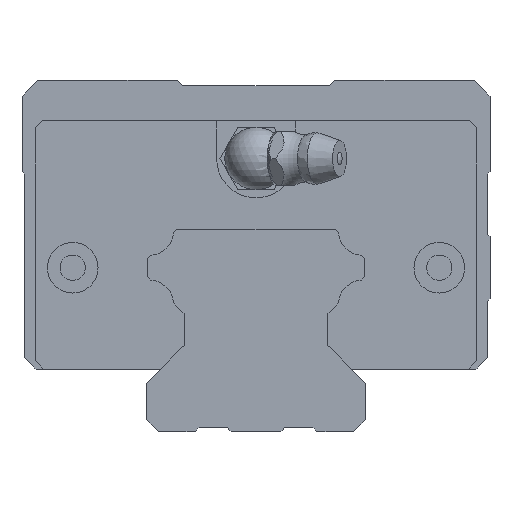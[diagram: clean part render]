
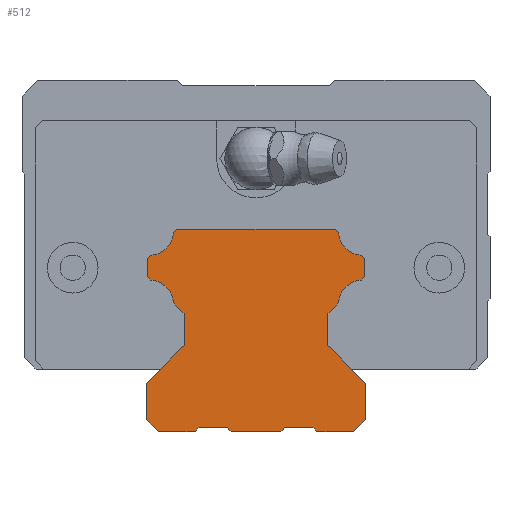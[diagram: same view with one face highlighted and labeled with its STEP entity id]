
A CAD part, front view. The second image highlights one B-rep face of the part: STEP entity #512.
In plain terms, the highlighted planar face has unit normal (0, -1, 0).
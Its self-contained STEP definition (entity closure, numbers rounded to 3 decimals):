
#319=CIRCLE('',#3570,3.1);
#321=CIRCLE('',#3576,3.1);
#332=CIRCLE('',#3609,3.1);
#334=CIRCLE('',#3615,3.1);
#512=ADVANCED_FACE('',(#819),#660,.T.);
#660=PLANE('',#3617);
#819=FACE_OUTER_BOUND('',#1030,.T.);
#1030=EDGE_LOOP('',(#1834,#1835,#1836,#1837,#1838,#1839,#1840,#1841,#1842,
#1843,#1844,#1845,#1846,#1847,#1848,#1849,#1850,#1851,#1852,#1853,#1854,
#1855,#1856,#1857,#1858,#1859,#1860,#1861,#1862,#1863,#1864,#1865));
#1834=ORIENTED_EDGE('',*,*,#2595,.T.);
#1835=ORIENTED_EDGE('',*,*,#2603,.F.);
#1836=ORIENTED_EDGE('',*,*,#2606,.F.);
#1837=ORIENTED_EDGE('',*,*,#2609,.F.);
#1838=ORIENTED_EDGE('',*,*,#2612,.F.);
#1839=ORIENTED_EDGE('',*,*,#2615,.T.);
#1840=ORIENTED_EDGE('',*,*,#2618,.T.);
#1841=ORIENTED_EDGE('',*,*,#2621,.F.);
#1842=ORIENTED_EDGE('',*,*,#2624,.T.);
#1843=ORIENTED_EDGE('',*,*,#2627,.T.);
#1844=ORIENTED_EDGE('',*,*,#2630,.F.);
#1845=ORIENTED_EDGE('',*,*,#2633,.T.);
#1846=ORIENTED_EDGE('',*,*,#2636,.T.);
#1847=ORIENTED_EDGE('',*,*,#2639,.F.);
#1848=ORIENTED_EDGE('',*,*,#2642,.T.);
#1849=ORIENTED_EDGE('',*,*,#2646,.T.);
#1850=ORIENTED_EDGE('',*,*,#2585,.F.);
#1851=ORIENTED_EDGE('',*,*,#2653,.T.);
#1852=ORIENTED_EDGE('',*,*,#2592,.T.);
#1853=ORIENTED_EDGE('',*,*,#2661,.F.);
#1854=ORIENTED_EDGE('',*,*,#2666,.F.);
#1855=ORIENTED_EDGE('',*,*,#2669,.T.);
#1856=ORIENTED_EDGE('',*,*,#2672,.F.);
#1857=ORIENTED_EDGE('',*,*,#2675,.F.);
#1858=ORIENTED_EDGE('',*,*,#2678,.F.);
#1859=ORIENTED_EDGE('',*,*,#2681,.F.);
#1860=ORIENTED_EDGE('',*,*,#2684,.F.);
#1861=ORIENTED_EDGE('',*,*,#2687,.F.);
#1862=ORIENTED_EDGE('',*,*,#2690,.F.);
#1863=ORIENTED_EDGE('',*,*,#2693,.F.);
#1864=ORIENTED_EDGE('',*,*,#2696,.T.);
#1865=ORIENTED_EDGE('',*,*,#2698,.F.);
#2182=VERTEX_POINT('',#5400);
#2183=VERTEX_POINT('',#5402);
#2184=VERTEX_POINT('',#5409);
#2187=VERTEX_POINT('',#5414);
#2190=VERTEX_POINT('',#5421);
#2191=VERTEX_POINT('',#5423);
#2197=VERTEX_POINT('',#5437);
#2199=VERTEX_POINT('',#5443);
#2201=VERTEX_POINT('',#5449);
#2203=VERTEX_POINT('',#5455);
#2205=VERTEX_POINT('',#5461);
#2207=VERTEX_POINT('',#5467);
#2209=VERTEX_POINT('',#5473);
#2211=VERTEX_POINT('',#5479);
#2213=VERTEX_POINT('',#5485);
#2215=VERTEX_POINT('',#5491);
#2217=VERTEX_POINT('',#5497);
#2219=VERTEX_POINT('',#5503);
#2221=VERTEX_POINT('',#5509);
#2223=VERTEX_POINT('',#5515);
#2229=VERTEX_POINT('',#5545);
#2231=VERTEX_POINT('',#5553);
#2233=VERTEX_POINT('',#5559);
#2235=VERTEX_POINT('',#5565);
#2237=VERTEX_POINT('',#5571);
#2239=VERTEX_POINT('',#5577);
#2241=VERTEX_POINT('',#5583);
#2243=VERTEX_POINT('',#5589);
#2245=VERTEX_POINT('',#5595);
#2247=VERTEX_POINT('',#5601);
#2249=VERTEX_POINT('',#5607);
#2251=VERTEX_POINT('',#5613);
#2585=EDGE_CURVE('',#2182,#2183,#2939,.T.);
#2592=EDGE_CURVE('',#2184,#2187,#2943,.T.);
#2595=EDGE_CURVE('',#2191,#2190,#2946,.T.);
#2603=EDGE_CURVE('',#2197,#2190,#2950,.T.);
#2606=EDGE_CURVE('',#2199,#2197,#2953,.T.);
#2609=EDGE_CURVE('',#2201,#2199,#319,.T.);
#2612=EDGE_CURVE('',#2203,#2201,#2957,.T.);
#2615=EDGE_CURVE('',#2203,#2205,#2960,.T.);
#2618=EDGE_CURVE('',#2205,#2207,#2963,.T.);
#2621=EDGE_CURVE('',#2209,#2207,#321,.T.);
#2624=EDGE_CURVE('',#2209,#2211,#2967,.T.);
#2627=EDGE_CURVE('',#2211,#2213,#2970,.T.);
#2630=EDGE_CURVE('',#2215,#2213,#2973,.T.);
#2633=EDGE_CURVE('',#2215,#2217,#2976,.T.);
#2636=EDGE_CURVE('',#2217,#2219,#2979,.T.);
#2639=EDGE_CURVE('',#2221,#2219,#2982,.T.);
#2642=EDGE_CURVE('',#2221,#2223,#2985,.T.);
#2646=EDGE_CURVE('',#2223,#2183,#2986,.T.);
#2653=EDGE_CURVE('',#2182,#2184,#2990,.T.);
#2661=EDGE_CURVE('',#2229,#2187,#2995,.T.);
#2666=EDGE_CURVE('',#2231,#2229,#2998,.T.);
#2669=EDGE_CURVE('',#2231,#2233,#3001,.T.);
#2672=EDGE_CURVE('',#2235,#2233,#3004,.T.);
#2675=EDGE_CURVE('',#2237,#2235,#3007,.T.);
#2678=EDGE_CURVE('',#2239,#2237,#3010,.T.);
#2681=EDGE_CURVE('',#2241,#2239,#3013,.T.);
#2684=EDGE_CURVE('',#2243,#2241,#3016,.T.);
#2687=EDGE_CURVE('',#2245,#2243,#332,.T.);
#2690=EDGE_CURVE('',#2247,#2245,#3020,.T.);
#2693=EDGE_CURVE('',#2249,#2247,#3023,.T.);
#2696=EDGE_CURVE('',#2249,#2251,#3026,.T.);
#2698=EDGE_CURVE('',#2191,#2251,#334,.T.);
#2939=LINE('',#5401,#3259);
#2943=LINE('',#5415,#3263);
#2946=LINE('',#5422,#3266);
#2950=LINE('',#5438,#3270);
#2953=LINE('',#5444,#3273);
#2957=LINE('',#5456,#3277);
#2960=LINE('',#5462,#3280);
#2963=LINE('',#5468,#3283);
#2967=LINE('',#5480,#3287);
#2970=LINE('',#5486,#3290);
#2973=LINE('',#5492,#3293);
#2976=LINE('',#5498,#3296);
#2979=LINE('',#5504,#3299);
#2982=LINE('',#5510,#3302);
#2985=LINE('',#5516,#3305);
#2986=LINE('',#5521,#3306);
#2990=LINE('',#5532,#3310);
#2995=LINE('',#5546,#3315);
#2998=LINE('',#5554,#3318);
#3001=LINE('',#5560,#3321);
#3004=LINE('',#5566,#3324);
#3007=LINE('',#5572,#3327);
#3010=LINE('',#5578,#3330);
#3013=LINE('',#5584,#3333);
#3016=LINE('',#5590,#3336);
#3020=LINE('',#5602,#3340);
#3023=LINE('',#5608,#3343);
#3026=LINE('',#5614,#3346);
#3259=VECTOR('',#4289,1.);
#3263=VECTOR('',#4303,1.);
#3266=VECTOR('',#4308,1.);
#3270=VECTOR('',#4322,1.);
#3273=VECTOR('',#4327,1.);
#3277=VECTOR('',#4339,1.);
#3280=VECTOR('',#4344,1.);
#3283=VECTOR('',#4349,1.);
#3287=VECTOR('',#4361,1.);
#3290=VECTOR('',#4366,1.);
#3293=VECTOR('',#4371,1.);
#3296=VECTOR('',#4376,1.);
#3299=VECTOR('',#4381,1.);
#3302=VECTOR('',#4386,1.);
#3305=VECTOR('',#4391,1.);
#3306=VECTOR('',#4400,1.);
#3310=VECTOR('',#4414,1.);
#3315=VECTOR('',#4429,1.);
#3318=VECTOR('',#4438,1.);
#3321=VECTOR('',#4443,1.);
#3324=VECTOR('',#4448,1.);
#3327=VECTOR('',#4453,1.);
#3330=VECTOR('',#4458,1.);
#3333=VECTOR('',#4463,1.);
#3336=VECTOR('',#4468,1.);
#3340=VECTOR('',#4480,1.);
#3343=VECTOR('',#4485,1.);
#3346=VECTOR('',#4490,1.);
#3570=AXIS2_PLACEMENT_3D('',#5450,#4333,#4334);
#3576=AXIS2_PLACEMENT_3D('',#5474,#4355,#4356);
#3609=AXIS2_PLACEMENT_3D('',#5596,#4474,#4475);
#3615=AXIS2_PLACEMENT_3D('',#5617,#4495,#4496);
#3617=AXIS2_PLACEMENT_3D('',#5619,#4499,#4500);
#4289=DIRECTION('',(-0.707,0.,0.707));
#4303=DIRECTION('',(0.707,0.,0.707));
#4308=DIRECTION('',(-0.707,0.,0.707));
#4322=DIRECTION('',(1.,0.,0.));
#4327=DIRECTION('',(0.707,0.,0.707));
#4333=DIRECTION('',(0.,-1.,0.));
#4334=DIRECTION('',(1.,0.,0.));
#4339=DIRECTION('',(0.707,0.,0.707));
#4344=DIRECTION('',(0.,0.,-1.));
#4349=DIRECTION('',(0.707,0.,-0.707));
#4355=DIRECTION('',(0.,-1.,0.));
#4356=DIRECTION('',(1.,0.,0.));
#4361=DIRECTION('',(0.707,0.,-0.707));
#4366=DIRECTION('',(0.,0.,-1.));
#4371=DIRECTION('',(0.707,0.,0.707));
#4376=DIRECTION('',(0.,0.,-1.));
#4381=DIRECTION('',(0.707,0.,-0.707));
#4386=DIRECTION('',(-1.,0.,0.));
#4391=DIRECTION('',(0.707,0.,0.707));
#4400=DIRECTION('',(1.,0.,0.));
#4414=DIRECTION('',(1.,0.,0.));
#4429=DIRECTION('',(-1.,0.,0.));
#4438=DIRECTION('',(-0.707,0.,0.707));
#4443=DIRECTION('',(1.,0.,0.));
#4448=DIRECTION('',(-0.707,0.,-0.707));
#4453=DIRECTION('',(0.,0.,-1.));
#4458=DIRECTION('',(0.707,0.,-0.707));
#4463=DIRECTION('',(0.,0.,-1.));
#4468=DIRECTION('',(-0.707,0.,-0.707));
#4474=DIRECTION('',(0.,-1.,0.));
#4475=DIRECTION('',(1.,0.,0.));
#4480=DIRECTION('',(-0.707,0.,-0.707));
#4485=DIRECTION('',(0.,0.,-1.));
#4490=DIRECTION('',(-0.707,0.,0.707));
#4495=DIRECTION('',(0.,-1.,0.));
#4496=DIRECTION('',(1.,0.,0.));
#4499=DIRECTION('',(0.,-1.,0.));
#4500=DIRECTION('',(0.,0.,-1.));
#5400=CARTESIAN_POINT('',(-3.2,-167.7,-43.7));
#5401=CARTESIAN_POINT('',(-3.2,-167.7,-43.7));
#5402=CARTESIAN_POINT('',(-3.7,-167.7,-43.2));
#5409=CARTESIAN_POINT('',(3.2,-167.7,-43.7));
#5414=CARTESIAN_POINT('',(3.7,-167.7,-43.2));
#5415=CARTESIAN_POINT('',(3.2,-167.7,-43.7));
#5421=CARTESIAN_POINT('',(10.171,-167.7,-17.77));
#5422=CARTESIAN_POINT('',(10.583,-167.7,-18.182));
#5423=CARTESIAN_POINT('',(10.583,-167.7,-18.182));
#5437=CARTESIAN_POINT('',(-10.171,-167.7,-17.77));
#5438=CARTESIAN_POINT('',(-10.171,-167.7,-17.77));
#5443=CARTESIAN_POINT('',(-10.583,-167.7,-18.182));
#5444=CARTESIAN_POINT('',(-10.583,-167.7,-18.182));
#5449=CARTESIAN_POINT('',(-13.518,-167.7,-21.117));
#5450=CARTESIAN_POINT('',(-13.679,-167.7,-18.021));
#5455=CARTESIAN_POINT('',(-13.93,-167.7,-21.529));
#5456=CARTESIAN_POINT('',(-13.93,-167.7,-21.529));
#5461=CARTESIAN_POINT('',(-13.93,-167.7,-23.871));
#5462=CARTESIAN_POINT('',(-13.93,-167.7,-21.529));
#5467=CARTESIAN_POINT('',(-13.518,-167.7,-24.283));
#5468=CARTESIAN_POINT('',(-13.93,-167.7,-23.871));
#5473=CARTESIAN_POINT('',(-10.583,-167.7,-27.218));
#5474=CARTESIAN_POINT('',(-13.679,-167.7,-27.379));
#5479=CARTESIAN_POINT('',(-9.23,-167.7,-28.571));
#5480=CARTESIAN_POINT('',(-10.583,-167.7,-27.218));
#5485=CARTESIAN_POINT('',(-9.23,-167.7,-32.729));
#5486=CARTESIAN_POINT('',(-9.23,-167.7,-28.571));
#5491=CARTESIAN_POINT('',(-14.,-167.7,-37.499));
#5492=CARTESIAN_POINT('',(-14.,-167.7,-37.499));
#5497=CARTESIAN_POINT('',(-14.,-167.7,-42.2));
#5498=CARTESIAN_POINT('',(-14.,-167.7,-37.499));
#5503=CARTESIAN_POINT('',(-12.5,-167.7,-43.7));
#5504=CARTESIAN_POINT('',(-14.,-167.7,-42.2));
#5509=CARTESIAN_POINT('',(-7.8,-167.7,-43.7));
#5510=CARTESIAN_POINT('',(-7.8,-167.7,-43.7));
#5515=CARTESIAN_POINT('',(-7.3,-167.7,-43.2));
#5516=CARTESIAN_POINT('',(-7.8,-167.7,-43.7));
#5521=CARTESIAN_POINT('',(-7.3,-167.7,-43.2));
#5532=CARTESIAN_POINT('',(-3.2,-167.7,-43.7));
#5545=CARTESIAN_POINT('',(7.3,-167.7,-43.2));
#5546=CARTESIAN_POINT('',(7.3,-167.7,-43.2));
#5553=CARTESIAN_POINT('',(7.8,-167.7,-43.7));
#5554=CARTESIAN_POINT('',(7.8,-167.7,-43.7));
#5559=CARTESIAN_POINT('',(12.5,-167.7,-43.7));
#5560=CARTESIAN_POINT('',(7.8,-167.7,-43.7));
#5565=CARTESIAN_POINT('',(14.,-167.7,-42.2));
#5566=CARTESIAN_POINT('',(14.,-167.7,-42.2));
#5571=CARTESIAN_POINT('',(14.,-167.7,-37.499));
#5572=CARTESIAN_POINT('',(14.,-167.7,-37.499));
#5577=CARTESIAN_POINT('',(9.23,-167.7,-32.729));
#5578=CARTESIAN_POINT('',(9.23,-167.7,-32.729));
#5583=CARTESIAN_POINT('',(9.23,-167.7,-28.571));
#5584=CARTESIAN_POINT('',(9.23,-167.7,-28.571));
#5589=CARTESIAN_POINT('',(10.583,-167.7,-27.218));
#5590=CARTESIAN_POINT('',(10.583,-167.7,-27.218));
#5595=CARTESIAN_POINT('',(13.518,-167.7,-24.283));
#5596=CARTESIAN_POINT('',(13.679,-167.7,-27.379));
#5601=CARTESIAN_POINT('',(13.93,-167.7,-23.871));
#5602=CARTESIAN_POINT('',(13.93,-167.7,-23.871));
#5607=CARTESIAN_POINT('',(13.93,-167.7,-21.529));
#5608=CARTESIAN_POINT('',(13.93,-167.7,-21.529));
#5613=CARTESIAN_POINT('',(13.518,-167.7,-21.117));
#5614=CARTESIAN_POINT('',(13.93,-167.7,-21.529));
#5617=CARTESIAN_POINT('',(13.679,-167.7,-18.021));
#5619=CARTESIAN_POINT('',(-13.679,-167.7,-18.021));
